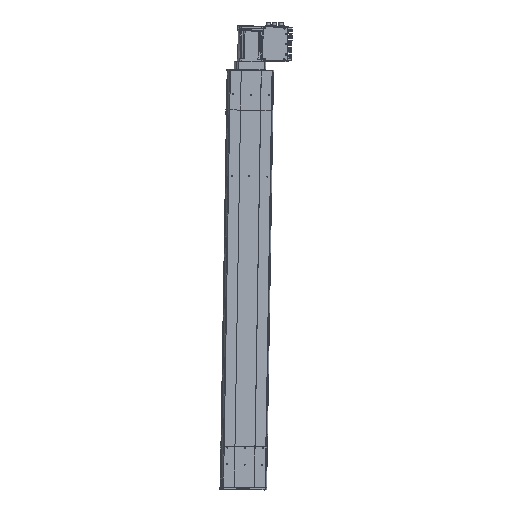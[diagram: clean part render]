
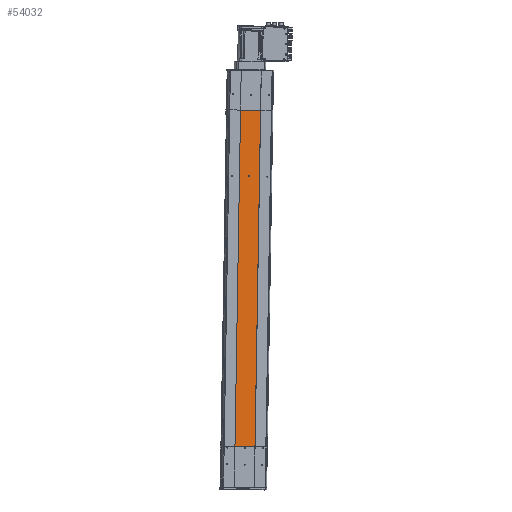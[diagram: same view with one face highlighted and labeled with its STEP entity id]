
A CAD part, front view. The second image highlights one B-rep face of the part: STEP entity #54032.
In plain terms, the highlighted planar face has unit normal (0.098, -0.995, 0.002) as drawn and (0, -1, 0) by its records, which use the part's own axes.
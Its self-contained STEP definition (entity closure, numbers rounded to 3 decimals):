
#38603 = DIRECTION ( 'NONE',  ( 0., 0., 1. ) ) ;
#38604 = DIRECTION ( 'NONE',  ( 0., 1., 0. ) ) ;
#38609 = FACE_BOUND ( 'NONE', #54097, .T. ) ;
#38610 = CARTESIAN_POINT ( 'NONE',  ( -30., -32.5, 350. ) ) ;
#38611 = DIRECTION ( 'NONE',  ( 1., 0., 0. ) ) ;
#38612 = VECTOR ( 'NONE', #38611, 1000. ) ;
#38614 = PLANE ( 'NONE',  #38637 ) ;
#38627 = DIRECTION ( 'NONE',  ( 0., 0., -1. ) ) ;
#38629 = DIRECTION ( 'NONE',  ( 0., -1., 0. ) ) ;
#38631 = CARTESIAN_POINT ( 'NONE',  ( 0., -32.5, 153.7 ) ) ;
#38632 = AXIS2_PLACEMENT_3D ( 'NONE', #38631, #38629, #38627 ) ;
#38633 = CIRCLE ( 'NONE', #38632, 1.6 ) ;
#38634 = CARTESIAN_POINT ( 'NONE',  ( -30., -32.5, -650. ) ) ;
#38635 = LINE ( 'NONE', #38634, #38612 ) ;
#38637 = AXIS2_PLACEMENT_3D ( 'NONE', #38610, #38604, #38603 ) ;
#38639 = FACE_OUTER_BOUND ( 'NONE', #54134, .T. ) ;
#38650 = CARTESIAN_POINT ( 'NONE',  ( 30., -32.5, -650. ) ) ;
#38807 = CARTESIAN_POINT ( 'NONE',  ( 30., -32.5, 350. ) ) ;
#38808 = LINE ( 'NONE', #38807, #38914 ) ;
#38820 = CARTESIAN_POINT ( 'NONE',  ( -30., -32.5, -650. ) ) ;
#38876 = CIRCLE ( 'NONE', #38897, 1.6 ) ;
#38877 = CARTESIAN_POINT ( 'NONE',  ( -30., -32.5, 350. ) ) ;
#38878 = LINE ( 'NONE', #38877, #38964 ) ;
#38880 = VECTOR ( 'NONE', #38901, 1000. ) ;
#38889 = CARTESIAN_POINT ( 'NONE',  ( 0., -32.5, 153.7 ) ) ;
#38890 = LINE ( 'NONE', #38902, #38880 ) ;
#38897 = AXIS2_PLACEMENT_3D ( 'NONE', #38889, #38959, #38958 ) ;
#38901 = DIRECTION ( 'NONE',  ( 1., 0., 0. ) ) ;
#38902 = CARTESIAN_POINT ( 'NONE',  ( -30., -32.5, 350. ) ) ;
#38904 = CARTESIAN_POINT ( 'NONE',  ( 30., -32.5, 350. ) ) ;
#38906 = CARTESIAN_POINT ( 'NONE',  ( -30., -32.5, 350. ) ) ;
#38913 = DIRECTION ( 'NONE',  ( 0., 0., -1. ) ) ;
#38914 = VECTOR ( 'NONE', #38913, 1000. ) ;
#38956 = CARTESIAN_POINT ( 'NONE',  ( 0., -32.5, 152.1 ) ) ;
#38958 = DIRECTION ( 'NONE',  ( 0., 0., -1. ) ) ;
#38959 = DIRECTION ( 'NONE',  ( 0., -1., 0. ) ) ;
#38963 = DIRECTION ( 'NONE',  ( 0., 0., -1. ) ) ;
#38964 = VECTOR ( 'NONE', #38963, 1000. ) ;
#38965 = CARTESIAN_POINT ( 'NONE',  ( 0., -32.5, 155.3 ) ) ;
#54024 = EDGE_CURVE ( 'NONE', #54124, #54126, #38633, .T. ) ;
#54030 = EDGE_CURVE ( 'NONE', #54100, #54033, #38635, .T. ) ;
#54032 = ADVANCED_FACE ( 'NONE', ( #38639, #38609 ), #38614, .F. ) ;
#54033 = VERTEX_POINT ( 'NONE', #38650 ) ;
#54034 = ORIENTED_EDGE ( 'NONE', *, *, #54030, .T. ) ;
#54097 = EDGE_LOOP ( 'NONE', ( #54120, #54121 ) ) ;
#54100 = VERTEX_POINT ( 'NONE', #38820 ) ;
#54102 = EDGE_CURVE ( 'NONE', #54104, #54033, #38808, .T. ) ;
#54104 = VERTEX_POINT ( 'NONE', #38904 ) ;
#54110 = VERTEX_POINT ( 'NONE', #38906 ) ;
#54111 = ORIENTED_EDGE ( 'NONE', *, *, #54102, .F. ) ;
#54112 = EDGE_CURVE ( 'NONE', #54110, #54104, #38890, .T. ) ;
#54115 = ORIENTED_EDGE ( 'NONE', *, *, #54112, .F. ) ;
#54116 = EDGE_CURVE ( 'NONE', #54110, #54100, #38878, .T. ) ;
#54117 = EDGE_CURVE ( 'NONE', #54126, #54124, #38876, .T. ) ;
#54118 = ORIENTED_EDGE ( 'NONE', *, *, #54116, .T. ) ;
#54120 = ORIENTED_EDGE ( 'NONE', *, *, #54117, .F. ) ;
#54121 = ORIENTED_EDGE ( 'NONE', *, *, #54024, .F. ) ;
#54124 = VERTEX_POINT ( 'NONE', #38965 ) ;
#54126 = VERTEX_POINT ( 'NONE', #38956 ) ;
#54134 = EDGE_LOOP ( 'NONE', ( #54034, #54111, #54115, #54118 ) ) ;
